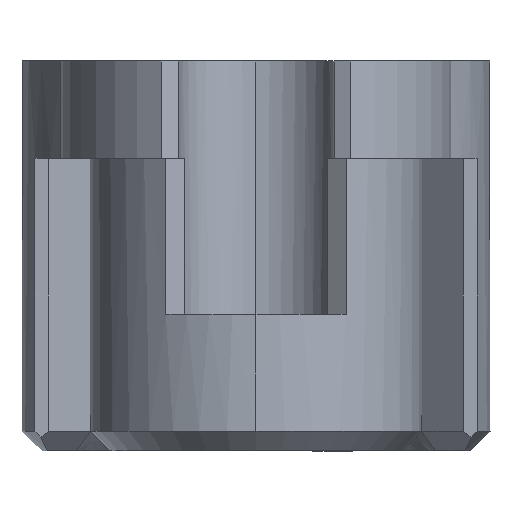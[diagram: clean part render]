
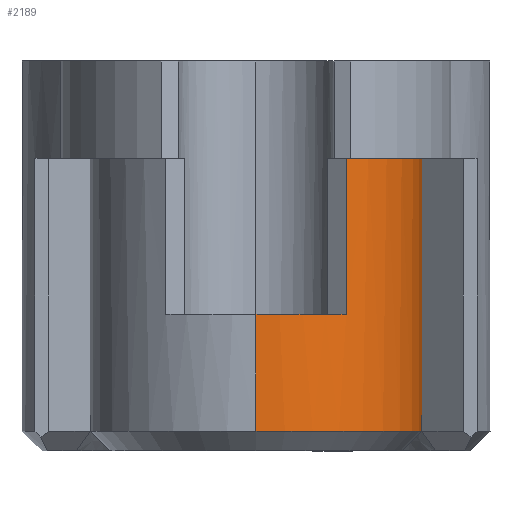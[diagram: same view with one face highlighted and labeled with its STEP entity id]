
A CAD part, left-side view. The second image highlights one B-rep face of the part: STEP entity #2189.
In plain terms, the highlighted cylindrical face has radius 0.85 mm (diameter 1.7 mm), a partial arc.
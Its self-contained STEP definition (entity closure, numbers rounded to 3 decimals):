
#14 = AXIS2_PLACEMENT_3D ( 'NONE', #3255, #1546, #4271 ) ;
#48 = ORIENTED_EDGE ( 'NONE', *, *, #4342, .T. ) ;
#89 = DIRECTION ( 'NONE',  ( 0., 0., 1. ) ) ;
#136 = EDGE_LOOP ( 'NONE', ( #993, #2362, #3214, #386, #4115, #48 ) ) ;
#150 = CIRCLE ( 'NONE', #3284, 0.85 ) ;
#249 = CARTESIAN_POINT ( 'NONE',  ( -1.8, -0.85, -0.5 ) ) ;
#386 = ORIENTED_EDGE ( 'NONE', *, *, #3402, .F. ) ;
#550 = CARTESIAN_POINT ( 'NONE',  ( -2.513, -0.463, -0.5 ) ) ;
#678 = DIRECTION ( 'NONE',  ( 1., 0., 0. ) ) ;
#728 = VERTEX_POINT ( 'NONE', #3765 ) ;
#945 = DIRECTION ( 'NONE',  ( 1., 0., 0. ) ) ;
#993 = ORIENTED_EDGE ( 'NONE', *, *, #1773, .F. ) ;
#1024 = VERTEX_POINT ( 'NONE', #550 ) ;
#1423 = VERTEX_POINT ( 'NONE', #1743 ) ;
#1434 = AXIS2_PLACEMENT_3D ( 'NONE', #2615, #2273, #2958 ) ;
#1546 = DIRECTION ( 'NONE',  ( 0., 0., -1. ) ) ;
#1706 = AXIS2_PLACEMENT_3D ( 'NONE', #3055, #4478, #678 ) ;
#1743 = CARTESIAN_POINT ( 'NONE',  ( -2.65, 0., -1.3 ) ) ;
#1773 = EDGE_CURVE ( 'NONE', #1423, #2004, #2284, .T. ) ;
#1973 = CARTESIAN_POINT ( 'NONE',  ( -1.8, -0.85, -1.9 ) ) ;
#1979 = DIRECTION ( 'NONE',  ( 0., 0., -1. ) ) ;
#2004 = VERTEX_POINT ( 'NONE', #3593 ) ;
#2189 = ADVANCED_FACE ( 'NONE', ( #3542 ), #4273, .T. ) ;
#2229 = CARTESIAN_POINT ( 'NONE',  ( -2.513, -0.463, -0.5 ) ) ;
#2273 = DIRECTION ( 'NONE',  ( 0., 0., 1. ) ) ;
#2284 = CIRCLE ( 'NONE', #1434, 0.85 ) ;
#2362 = ORIENTED_EDGE ( 'NONE', *, *, #3286, .T. ) ;
#2454 = VECTOR ( 'NONE', #4293, 1000. ) ;
#2491 = EDGE_CURVE ( 'NONE', #1024, #2851, #3663, .T. ) ;
#2615 = CARTESIAN_POINT ( 'NONE',  ( -1.8, 0., -1.3 ) ) ;
#2670 = VECTOR ( 'NONE', #1979, 1000. ) ;
#2768 = VERTEX_POINT ( 'NONE', #1973 ) ;
#2851 = VERTEX_POINT ( 'NONE', #4507 ) ;
#2894 = VECTOR ( 'NONE', #4217, 1000. ) ;
#2958 = DIRECTION ( 'NONE',  ( 1., 0., 0. ) ) ;
#3052 = LINE ( 'NONE', #3872, #2894 ) ;
#3055 = CARTESIAN_POINT ( 'NONE',  ( -1.8, 0., -0.5 ) ) ;
#3214 = ORIENTED_EDGE ( 'NONE', *, *, #3301, .T. ) ;
#3215 = LINE ( 'NONE', #249, #2670 ) ;
#3255 = CARTESIAN_POINT ( 'NONE',  ( -1.8, 0., -0.5 ) ) ;
#3284 = AXIS2_PLACEMENT_3D ( 'NONE', #3857, #89, #945 ) ;
#3286 = EDGE_CURVE ( 'NONE', #1423, #728, #3052, .T. ) ;
#3301 = EDGE_CURVE ( 'NONE', #728, #2768, #150, .T. ) ;
#3365 = LINE ( 'NONE', #2229, #2454 ) ;
#3402 = EDGE_CURVE ( 'NONE', #2851, #2768, #3215, .T. ) ;
#3542 = FACE_OUTER_BOUND ( 'NONE', #136, .T. ) ;
#3593 = CARTESIAN_POINT ( 'NONE',  ( -2.513, -0.463, -1.3 ) ) ;
#3663 = CIRCLE ( 'NONE', #1706, 0.85 ) ;
#3765 = CARTESIAN_POINT ( 'NONE',  ( -2.65, 0., -1.9 ) ) ;
#3857 = CARTESIAN_POINT ( 'NONE',  ( -1.8, 0., -1.9 ) ) ;
#3872 = CARTESIAN_POINT ( 'NONE',  ( -2.65, 0., -0.5 ) ) ;
#4115 = ORIENTED_EDGE ( 'NONE', *, *, #2491, .F. ) ;
#4217 = DIRECTION ( 'NONE',  ( 0., 0., -1. ) ) ;
#4271 = DIRECTION ( 'NONE',  ( -1., 0., 0. ) ) ;
#4273 = CYLINDRICAL_SURFACE ( 'NONE', #14, 0.85 ) ;
#4293 = DIRECTION ( 'NONE',  ( 0., 0., -1. ) ) ;
#4342 = EDGE_CURVE ( 'NONE', #1024, #2004, #3365, .T. ) ;
#4478 = DIRECTION ( 'NONE',  ( 0., 0., 1. ) ) ;
#4507 = CARTESIAN_POINT ( 'NONE',  ( -1.8, -0.85, -0.5 ) ) ;
